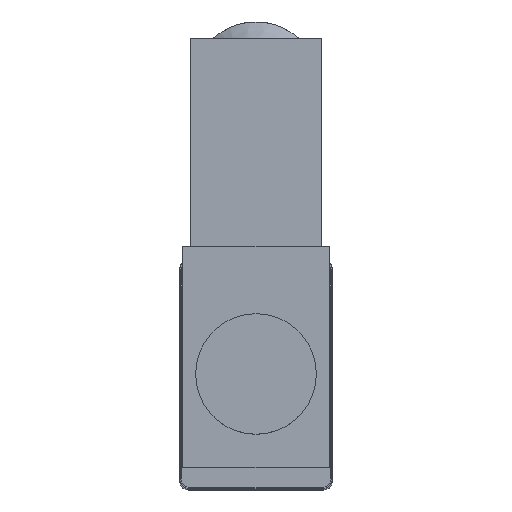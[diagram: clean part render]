
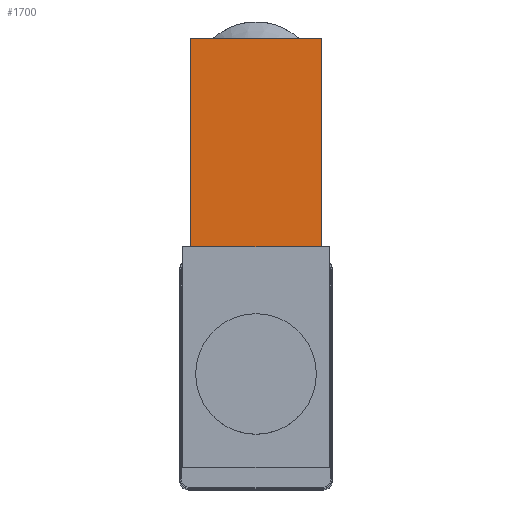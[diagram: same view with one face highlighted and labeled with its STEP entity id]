
A CAD part, top view. The second image highlights one B-rep face of the part: STEP entity #1700.
In plain terms, the highlighted planar face has unit normal (0, 0, 1).
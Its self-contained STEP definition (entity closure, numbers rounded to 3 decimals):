
#138 = EDGE_CURVE ( 'NONE', #1311, #1692, #1740, .T. ) ;
#293 = ORIENTED_EDGE ( 'NONE', *, *, #1522, .T. ) ;
#632 = CARTESIAN_POINT ( 'NONE',  ( -7.7, 39.5, 43.1 ) ) ;
#644 = VERTEX_POINT ( 'NONE', #3895 ) ;
#660 = LINE ( 'NONE', #1474, #2337 ) ;
#681 = DIRECTION ( 'NONE',  ( 1., 0., 0. ) ) ;
#730 = LINE ( 'NONE', #3418, #3030 ) ;
#1311 = VERTEX_POINT ( 'NONE', #3233 ) ;
#1474 = CARTESIAN_POINT ( 'NONE',  ( 8.6, 15., 43.1 ) ) ;
#1522 = EDGE_CURVE ( 'NONE', #644, #1692, #660, .T. ) ;
#1530 = ORIENTED_EDGE ( 'NONE', *, *, #3667, .T. ) ;
#1692 = VERTEX_POINT ( 'NONE', #2654 ) ;
#1700 = ADVANCED_FACE ( 'NONE', ( #4955 ), #2851, .F. ) ;
#1740 = LINE ( 'NONE', #4451, #2116 ) ;
#1851 = LINE ( 'NONE', #632, #2492 ) ;
#2054 = DIRECTION ( 'NONE',  ( 0., 0., -1. ) ) ;
#2116 = VECTOR ( 'NONE', #2147, 1000. ) ;
#2147 = DIRECTION ( 'NONE',  ( 0., -1., 0. ) ) ;
#2227 = VERTEX_POINT ( 'NONE', #4726 ) ;
#2260 = EDGE_CURVE ( 'NONE', #2227, #1311, #730, .T. ) ;
#2337 = VECTOR ( 'NONE', #681, 1000. ) ;
#2362 = EDGE_LOOP ( 'NONE', ( #1530, #293, #4172, #4648 ) ) ;
#2480 = DIRECTION ( 'NONE',  ( 0., -1., 0. ) ) ;
#2492 = VECTOR ( 'NONE', #3327, 1000. ) ;
#2654 = CARTESIAN_POINT ( 'NONE',  ( 7.7, 15., 43.1 ) ) ;
#2719 = DIRECTION ( 'NONE',  ( 1., 0., 0. ) ) ;
#2851 = PLANE ( 'NONE',  #3048 ) ;
#3030 = VECTOR ( 'NONE', #2719, 1000. ) ;
#3048 = AXIS2_PLACEMENT_3D ( 'NONE', #4791, #2054, #2480 ) ;
#3233 = CARTESIAN_POINT ( 'NONE',  ( 7.7, 39.5, 43.1 ) ) ;
#3327 = DIRECTION ( 'NONE',  ( 0., -1., 0. ) ) ;
#3418 = CARTESIAN_POINT ( 'NONE',  ( -7.7, 39.5, 43.1 ) ) ;
#3667 = EDGE_CURVE ( 'NONE', #2227, #644, #1851, .T. ) ;
#3895 = CARTESIAN_POINT ( 'NONE',  ( -7.7, 15., 43.1 ) ) ;
#4172 = ORIENTED_EDGE ( 'NONE', *, *, #138, .F. ) ;
#4451 = CARTESIAN_POINT ( 'NONE',  ( 7.7, 39.5, 43.1 ) ) ;
#4648 = ORIENTED_EDGE ( 'NONE', *, *, #2260, .F. ) ;
#4726 = CARTESIAN_POINT ( 'NONE',  ( -7.7, 39.5, 43.1 ) ) ;
#4791 = CARTESIAN_POINT ( 'NONE',  ( -7.7, 39.5, 43.1 ) ) ;
#4955 = FACE_OUTER_BOUND ( 'NONE', #2362, .T. ) ;
